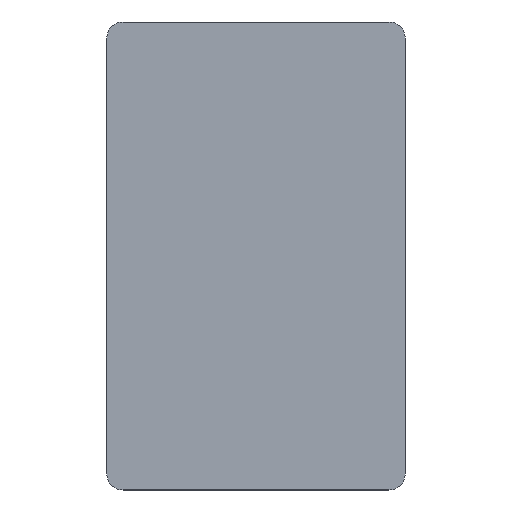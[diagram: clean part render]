
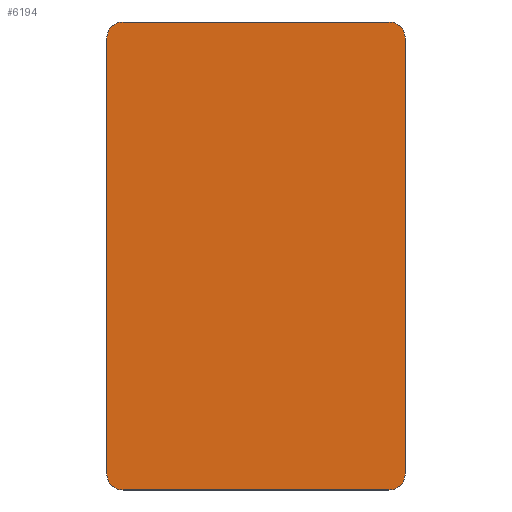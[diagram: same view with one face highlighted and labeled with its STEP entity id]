
A CAD part, top view. The second image highlights one B-rep face of the part: STEP entity #6194.
In plain terms, the highlighted planar face has unit normal (0, 0, 1).
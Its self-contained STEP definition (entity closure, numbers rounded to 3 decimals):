
#92 = EDGE_CURVE ( 'NONE', #12816, #16712, #11090, .T. ) ;
#339 = CARTESIAN_POINT ( 'NONE',  ( -40.73, 74.17, 4.92 ) ) ;
#500 = CARTESIAN_POINT ( 'NONE',  ( 40.73, -64.23, 4.92 ) ) ;
#1398 = CARTESIAN_POINT ( 'NONE',  ( -40.73, 69.17, 4.92 ) ) ;
#1414 = EDGE_CURVE ( 'NONE', #16712, #3800, #10579, .T. ) ;
#1516 = CARTESIAN_POINT ( 'NONE',  ( 40.73, -69.23, 4.92 ) ) ;
#1582 = DIRECTION ( 'NONE',  ( 0., -1., 0. ) ) ;
#1809 = DIRECTION ( 'NONE',  ( -1., 0., 0. ) ) ;
#1835 = DIRECTION ( 'NONE',  ( 0., 0., 1. ) ) ;
#1930 = ORIENTED_EDGE ( 'NONE', *, *, #92, .T. ) ;
#2033 = LINE ( 'NONE', #7424, #9091 ) ;
#2325 = VERTEX_POINT ( 'NONE', #1516 ) ;
#2663 = ORIENTED_EDGE ( 'NONE', *, *, #5253, .T. ) ;
#2810 = DIRECTION ( 'NONE',  ( 0., 0., 1. ) ) ;
#2812 = AXIS2_PLACEMENT_3D ( 'NONE', #13151, #6360, #7862 ) ;
#2916 = DIRECTION ( 'NONE',  ( 0., 1., 0. ) ) ;
#2919 = LINE ( 'NONE', #13683, #17191 ) ;
#3267 = ORIENTED_EDGE ( 'NONE', *, *, #9230, .T. ) ;
#3424 = ORIENTED_EDGE ( 'NONE', *, *, #13594, .T. ) ;
#3707 = FACE_OUTER_BOUND ( 'NONE', #12944, .T. ) ;
#3800 = VERTEX_POINT ( 'NONE', #5394 ) ;
#4197 = CIRCLE ( 'NONE', #15775, 5. ) ;
#4739 = VECTOR ( 'NONE', #1809, 1000. ) ;
#4752 = CARTESIAN_POINT ( 'NONE',  ( -40.73, -69.23, 4.92 ) ) ;
#5218 = CARTESIAN_POINT ( 'NONE',  ( 45.73, 69.17, 4.92 ) ) ;
#5253 = EDGE_CURVE ( 'NONE', #10043, #6496, #11052, .T. ) ;
#5394 = CARTESIAN_POINT ( 'NONE',  ( -45.73, 69.17, 4.92 ) ) ;
#5485 = CARTESIAN_POINT ( 'NONE',  ( 45.73, -64.23, 4.92 ) ) ;
#5603 = EDGE_CURVE ( 'NONE', #7413, #12816, #4197, .T. ) ;
#5986 = CARTESIAN_POINT ( 'NONE',  ( -40.73, -64.23, 4.92 ) ) ;
#6165 = ORIENTED_EDGE ( 'NONE', *, *, #16862, .T. ) ;
#6177 = DIRECTION ( 'NONE',  ( 1., 0., 0. ) ) ;
#6194 = ADVANCED_FACE ( 'NONE', ( #3707 ), #9105, .T. ) ;
#6360 = DIRECTION ( 'NONE',  ( 0., 0., 1. ) ) ;
#6496 = VERTEX_POINT ( 'NONE', #4752 ) ;
#6943 = CARTESIAN_POINT ( 'NONE',  ( -45.73, -64.23, 4.92 ) ) ;
#7104 = CARTESIAN_POINT ( 'NONE',  ( 40.73, 74.17, 4.92 ) ) ;
#7105 = AXIS2_PLACEMENT_3D ( 'NONE', #5986, #1835, #11286 ) ;
#7237 = DIRECTION ( 'NONE',  ( 0., -1., 0. ) ) ;
#7413 = VERTEX_POINT ( 'NONE', #5218 ) ;
#7424 = CARTESIAN_POINT ( 'NONE',  ( -40.73, -69.23, 4.92 ) ) ;
#7862 = DIRECTION ( 'NONE',  ( 1., 0., 0. ) ) ;
#8357 = CARTESIAN_POINT ( 'NONE',  ( 40.73, 74.17, 4.92 ) ) ;
#9091 = VECTOR ( 'NONE', #6177, 1000. ) ;
#9105 = PLANE ( 'NONE',  #2812 ) ;
#9230 = EDGE_CURVE ( 'NONE', #6496, #2325, #2033, .T. ) ;
#9550 = VECTOR ( 'NONE', #2916, 1000. ) ;
#10043 = VERTEX_POINT ( 'NONE', #6943 ) ;
#10100 = DIRECTION ( 'NONE',  ( 1., 0., 0. ) ) ;
#10579 = CIRCLE ( 'NONE', #15364, 5. ) ;
#11052 = CIRCLE ( 'NONE', #7105, 5. ) ;
#11090 = LINE ( 'NONE', #8357, #4739 ) ;
#11286 = DIRECTION ( 'NONE',  ( -1., 0., 0. ) ) ;
#11535 = CARTESIAN_POINT ( 'NONE',  ( 45.73, -64.23, 4.92 ) ) ;
#11598 = AXIS2_PLACEMENT_3D ( 'NONE', #500, #14117, #7237 ) ;
#12173 = CIRCLE ( 'NONE', #11598, 5. ) ;
#12202 = LINE ( 'NONE', #5485, #9550 ) ;
#12660 = CARTESIAN_POINT ( 'NONE',  ( 40.73, 69.17, 4.92 ) ) ;
#12816 = VERTEX_POINT ( 'NONE', #7104 ) ;
#12944 = EDGE_LOOP ( 'NONE', ( #12992, #2663, #3267, #6165, #3424, #14272, #1930, #14881 ) ) ;
#12992 = ORIENTED_EDGE ( 'NONE', *, *, #14851, .T. ) ;
#13151 = CARTESIAN_POINT ( 'NONE',  ( 0., 0., 4.92 ) ) ;
#13493 = DIRECTION ( 'NONE',  ( 0., 1., 0. ) ) ;
#13594 = EDGE_CURVE ( 'NONE', #15500, #7413, #12202, .T. ) ;
#13683 = CARTESIAN_POINT ( 'NONE',  ( -45.73, 69.17, 4.92 ) ) ;
#14117 = DIRECTION ( 'NONE',  ( 0., 0., 1. ) ) ;
#14272 = ORIENTED_EDGE ( 'NONE', *, *, #5603, .T. ) ;
#14851 = EDGE_CURVE ( 'NONE', #3800, #10043, #2919, .T. ) ;
#14881 = ORIENTED_EDGE ( 'NONE', *, *, #1414, .T. ) ;
#15364 = AXIS2_PLACEMENT_3D ( 'NONE', #1398, #2810, #13493 ) ;
#15393 = DIRECTION ( 'NONE',  ( 0., 0., 1. ) ) ;
#15500 = VERTEX_POINT ( 'NONE', #11535 ) ;
#15775 = AXIS2_PLACEMENT_3D ( 'NONE', #12660, #15393, #10100 ) ;
#16712 = VERTEX_POINT ( 'NONE', #339 ) ;
#16862 = EDGE_CURVE ( 'NONE', #2325, #15500, #12173, .T. ) ;
#17191 = VECTOR ( 'NONE', #1582, 1000. ) ;
